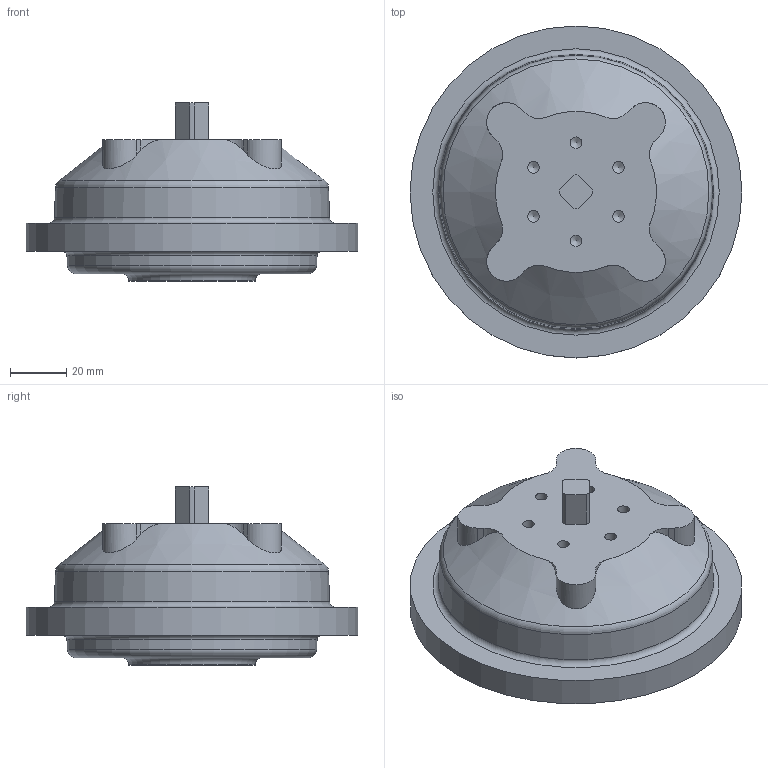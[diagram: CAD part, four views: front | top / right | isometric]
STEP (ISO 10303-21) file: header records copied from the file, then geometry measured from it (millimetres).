
FILE_DESCRIPTION( ( 'Unknown' ), '1' );
FILE_NAME( 'H:/3D Models for Customers/Spring Return/054-020 054-030/054-020 054-030 STEP.stp', 'Unknown', ( 'Unknown' ), ( 'Unknown' ), 'PSStep 10.1', 'Unknown', ' ' );
FILE_SCHEMA( ( 'AUTOMOTIVE_DESIGN { 1 0 10303 214 1 1 1 1 }' ) );
Length unit declared in the file: millimetre
Products named in the file (1): 1
Bounding box: 118 x 118 x 63.3 mm (x, y, z)
Volume: 344946.1 mm3; surface area: 35481 mm2
Topology: 1 solids, 1 shells, 73 faces, 174 edges, 114 vertices
Faces by surface type: cylinder 30, plane 29, cone 9, torus 5
Full cylindrical faces by diameter (mm): 4.134 x6, 5.5 x6, 44.95 x1, 118 x1
Entity records: 2776 total; most frequent: CARTESIAN_POINT 642, DIRECTION 322, ORIENTED_EDGE 266, AXIS2_PLACEMENT_3D 135, EDGE_CURVE 133, EDGE_LOOP 112, VERTEX_POINT 107, FACE_OUTER_BOUND 92
